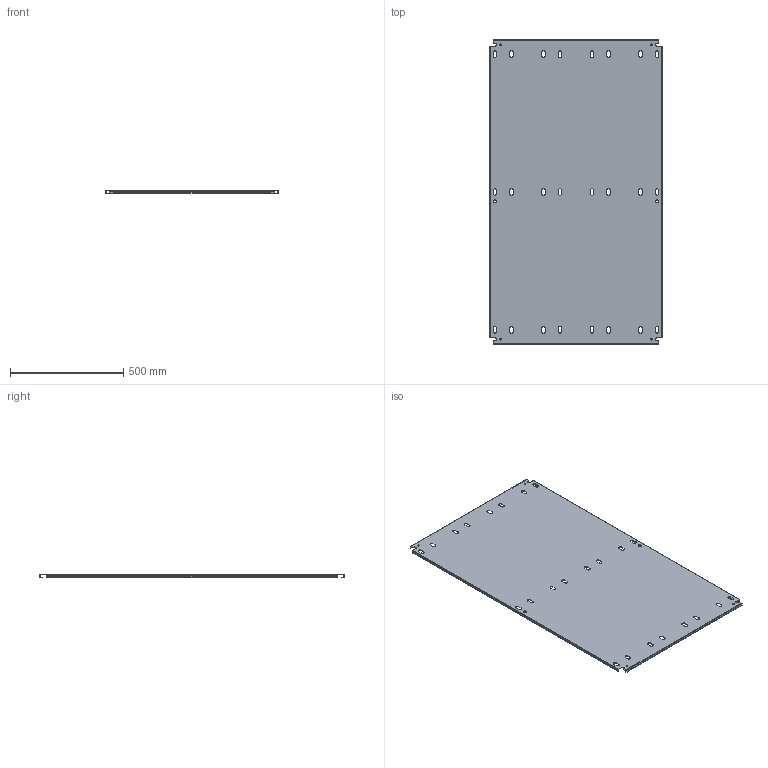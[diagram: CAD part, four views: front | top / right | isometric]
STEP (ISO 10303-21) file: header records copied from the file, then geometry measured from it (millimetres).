
FILE_DESCRIPTION(/* description */ ('1412BTCU 29.975" x 53" Right Inner Panel'),/* implementation_level */ '2;1');
FILE_NAME(/* name */ 'C:\Vault_Workspace\Inventor_Dwg\BoxCad\Result\1412BTCU122504\e-mail\3D\1412BTCU122504IP2.stp',/* time_stamp */ '2022-09-22T03:17:46-04:00',/* author */ ('BoxCad'),/* organization */ (''),/* preprocessor_version */ 'ST-DEVELOPER v18.1',/* originating_system */ 'Autodesk Inventor 2020',/* authorisation */ '');
FILE_SCHEMA (('AUTOMOTIVE_DESIGN { 1 0 10303 214 3 1 1 }'));
Length unit declared in the file: inch
Products named in the file (2): 1412BTCU122504IP2; 1412BTCU122504IP2-P
Assembly tree (1 placements, depth 2):
  1412BTCU122504IP2
    1412BTCU122504IP2-P
Bounding box: 761.37 x 1346.2 x 13 mm (x, y, z)
Volume: 1878327.4 mm3; surface area: 2186148 mm2
Topology: 1 solids, 1 shells, 216 faces, 642 edges, 428 vertices
Faces by surface type: plane 118, cylinder 98
Full cylindrical faces by diameter (mm): 7.366 x4, 12.7 x2
Entity records: 7471 total; most frequent: CARTESIAN_POINT 1289, ORIENTED_EDGE 1284, DIRECTION 1276, EDGE_CURVE 642, LINE 446, VECTOR 446, VERTEX_POINT 428, AXIS2_PLACEMENT_3D 415
